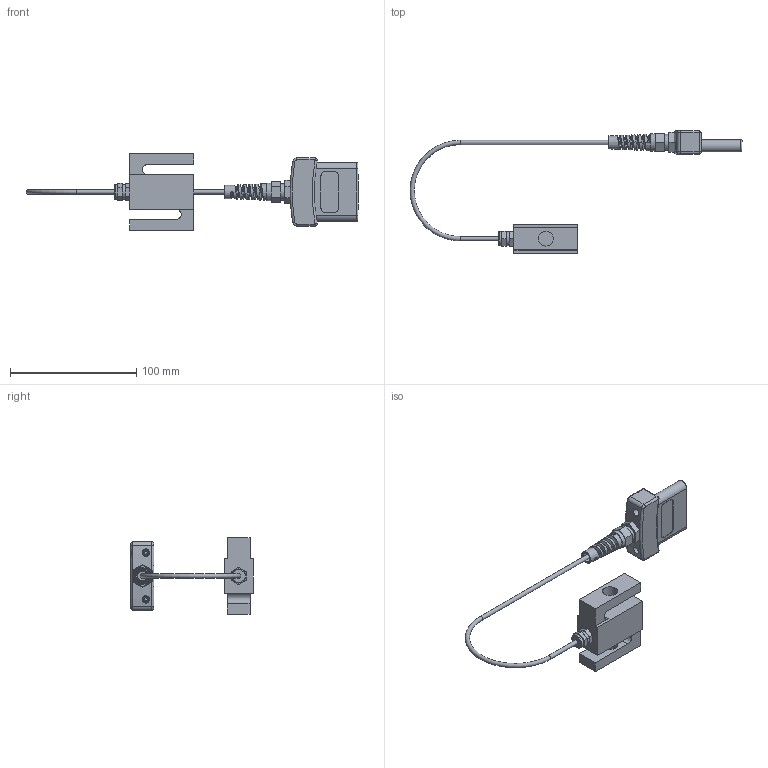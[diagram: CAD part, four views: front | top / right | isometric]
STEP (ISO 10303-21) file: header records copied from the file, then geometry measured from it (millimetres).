
FILE_DESCRIPTION((''),'2;1');
FILE_NAME('F:\CAD files\Itr\3D MARKETING MODELS\FORCE SENSORS\MR01\MR01-500-1000.stp','2017-06-20T14:55:33',('mlampen'),(''),'Autodesk Inventor 2010','Autodesk Inventor 2010','');
FILE_SCHEMA(('AUTOMOTIVE_DESIGN { 1 0 10303 214 1 1 1 1 }'));
Length unit declared in the file: inch
Products named in the file (1): Part2
Bounding box: 262.95 x 96.77 x 60.96 mm (x, y, z)
Volume: 88571.4 mm3; surface area: 30111.4 mm2
Topology: 4 solids, 4 shells, 357 faces, 967 edges, 640 vertices
Faces by surface type: plane 149, bspline 81, cylinder 70, cone 42, torus 11, sphere 4
Full cylindrical faces by diameter (mm): 3.175 x2, 3.429 x2, 4.648 x2, 5.842 x2, 7.62 x6, 11.176 x1, 11.24 x2, 11.875 x2, 12.7 x1
Entity records: 17849 total; most frequent: CARTESIAN_POINT 10066, ORIENTED_EDGE 1808, DIRECTION 1288, EDGE_CURVE 904, VERTEX_POINT 626, AXIS2_PLACEMENT_3D 484, EDGE_LOOP 418, FACE_OUTER_BOUND 347
